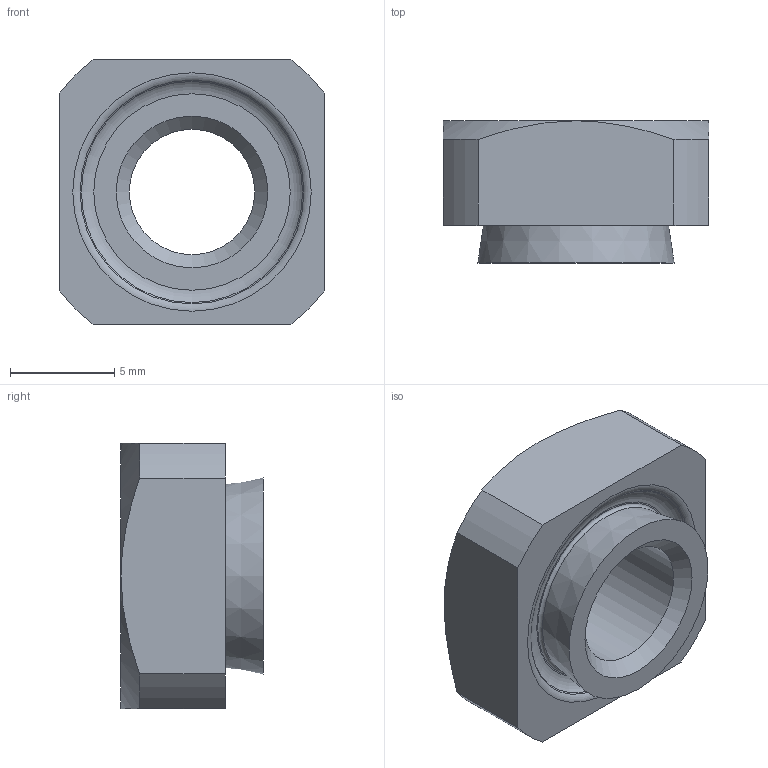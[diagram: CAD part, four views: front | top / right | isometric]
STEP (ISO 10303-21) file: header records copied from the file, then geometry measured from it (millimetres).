
FILE_DESCRIPTION(/* description */ (''),/* implementation_level */ '2;1');
FILE_NAME(/* name */ 'D:\Sukhmani\Fastit\HN Nut\HN 6-2.3.stp',/* time_stamp */ '2024-03-14T12:23:47+06:00',/* author */ ('edc.sukhmani'),/* organization */ (''),/* preprocessor_version */ 'ST-DEVELOPER v18.1',/* originating_system */ 'Autodesk Inventor 2022',/* authorisation */ '');
FILE_SCHEMA (('AUTOMOTIVE_DESIGN { 1 0 10303 214 3 1 1 }'));
Length unit declared in the file: millimetre
Products named in the file (1): HN 6-2.3
Bounding box: 12.72 x 6.8 x 12.72 mm (x, y, z)
Volume: 674.6 mm3; surface area: 671.4 mm2
Topology: 1 solids, 1 shells, 25 faces, 58 edges, 37 vertices
Faces by surface type: cone 8, plane 8, cylinder 6, torus 3
Full cylindrical faces by diameter (mm): 6 x1, 7.25 x1
Entity records: 763 total; most frequent: CARTESIAN_POINT 137, DIRECTION 134, ORIENTED_EDGE 116, EDGE_CURVE 58, AXIS2_PLACEMENT_3D 58, VERTEX_POINT 37, CIRCLE 32, EDGE_LOOP 29
